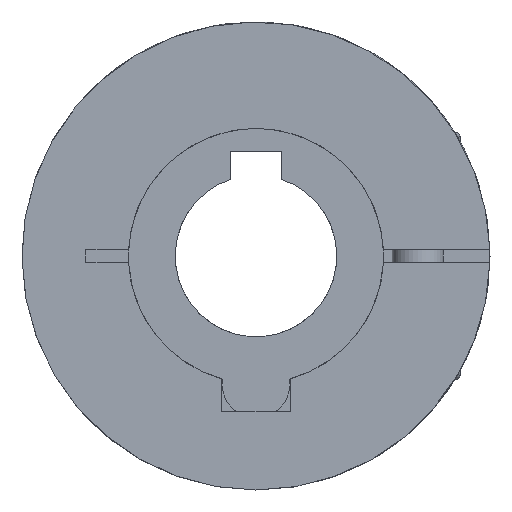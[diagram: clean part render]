
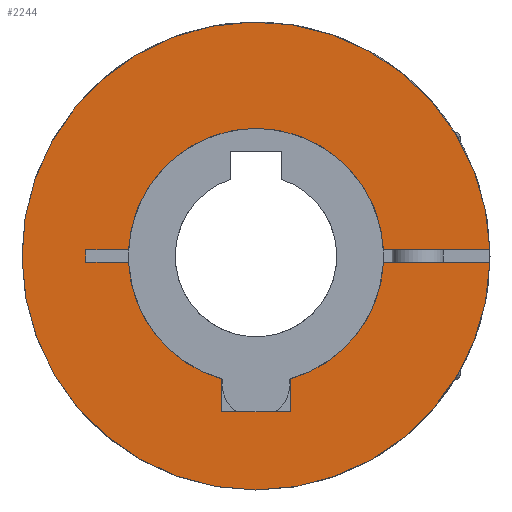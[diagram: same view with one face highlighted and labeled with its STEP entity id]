
A CAD part, left-side view. The second image highlights one B-rep face of the part: STEP entity #2244.
In plain terms, the highlighted planar face has unit normal (-1, 0, 0).
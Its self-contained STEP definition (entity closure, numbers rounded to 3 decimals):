
#32=PLANE('',#2564);
#235=FACE_OUTER_BOUND('',#372,.T.);
#372=EDGE_LOOP('',(#1700,#1701,#1702,#1703,#1704,#1705,#1706,#1707,#1708,
#1709,#1710,#1711,#1712));
#519=LINE('',#3938,#646);
#522=LINE('',#3944,#649);
#523=LINE('',#3946,#650);
#525=LINE('',#3950,#652);
#528=LINE('',#3955,#655);
#530=LINE('',#3958,#657);
#531=LINE('',#3960,#658);
#532=LINE('',#3961,#659);
#646=VECTOR('',#3047,1.);
#649=VECTOR('',#3052,1.);
#650=VECTOR('',#3055,1.);
#652=VECTOR('',#3059,15.057);
#655=VECTOR('',#3064,22.546);
#657=VECTOR('',#3068,22.546);
#658=VECTOR('',#3069,15.057);
#659=VECTOR('',#3070,1.5);
#857=CIRCLE('',#2546,27.5);
#859=CIRCLE('',#2548,27.5);
#862=CIRCLE('',#2552,15.);
#865=CIRCLE('',#2556,15.);
#867=CIRCLE('',#2558,15.);
#1033=VERTEX_POINT('',#3890);
#1034=VERTEX_POINT('',#3891);
#1036=VERTEX_POINT('',#3896);
#1041=VERTEX_POINT('',#3908);
#1042=VERTEX_POINT('',#3909);
#1047=VERTEX_POINT('',#3920);
#1048=VERTEX_POINT('',#3922);
#1051=VERTEX_POINT('',#3928);
#1052=VERTEX_POINT('',#3930);
#1054=VERTEX_POINT('',#3936);
#1056=VERTEX_POINT('',#3942);
#1057=VERTEX_POINT('',#3949);
#1059=VERTEX_POINT('',#3959);
#1293=EDGE_CURVE('',#1033,#1034,#857,.T.);
#1296=EDGE_CURVE('',#1034,#1036,#859,.T.);
#1302=EDGE_CURVE('',#1041,#1042,#862,.T.);
#1308=EDGE_CURVE('',#1048,#1047,#865,.T.);
#1312=EDGE_CURVE('',#1052,#1051,#867,.T.);
#1316=EDGE_CURVE('',#1051,#1054,#519,.T.);
#1319=EDGE_CURVE('',#1054,#1056,#522,.T.);
#1320=EDGE_CURVE('',#1056,#1048,#523,.T.);
#1322=EDGE_CURVE('',#1057,#1041,#525,.T.);
#1325=EDGE_CURVE('',#1033,#1052,#528,.T.);
#1327=EDGE_CURVE('',#1042,#1036,#530,.T.);
#1328=EDGE_CURVE('',#1059,#1047,#531,.T.);
#1329=EDGE_CURVE('',#1057,#1059,#532,.T.);
#1700=ORIENTED_EDGE('',*,*,#1302,.T.);
#1701=ORIENTED_EDGE('',*,*,#1327,.T.);
#1702=ORIENTED_EDGE('',*,*,#1296,.F.);
#1703=ORIENTED_EDGE('',*,*,#1293,.F.);
#1704=ORIENTED_EDGE('',*,*,#1325,.T.);
#1705=ORIENTED_EDGE('',*,*,#1312,.T.);
#1706=ORIENTED_EDGE('',*,*,#1316,.T.);
#1707=ORIENTED_EDGE('',*,*,#1319,.T.);
#1708=ORIENTED_EDGE('',*,*,#1320,.T.);
#1709=ORIENTED_EDGE('',*,*,#1308,.T.);
#1710=ORIENTED_EDGE('',*,*,#1328,.F.);
#1711=ORIENTED_EDGE('',*,*,#1329,.F.);
#1712=ORIENTED_EDGE('',*,*,#1322,.T.);
#2244=ADVANCED_FACE('',(#235),#32,.T.);
#2546=AXIS2_PLACEMENT_3D('',#3892,#3007,#3008);
#2548=AXIS2_PLACEMENT_3D('',#3897,#3012,#3013);
#2552=AXIS2_PLACEMENT_3D('',#3910,#3023,#3024);
#2556=AXIS2_PLACEMENT_3D('',#3923,#3034,#3035);
#2558=AXIS2_PLACEMENT_3D('',#3931,#3040,#3041);
#2564=AXIS2_PLACEMENT_3D('',#3957,#3066,#3067);
#3007=DIRECTION('center_axis',(1.,0.,0.));
#3008=DIRECTION('ref_axis',(0.,0.,1.));
#3012=DIRECTION('center_axis',(1.,0.,0.));
#3013=DIRECTION('ref_axis',(0.,0.,1.));
#3023=DIRECTION('center_axis',(1.,0.,0.));
#3024=DIRECTION('ref_axis',(0.,0.,-1.));
#3034=DIRECTION('center_axis',(1.,0.,0.));
#3035=DIRECTION('ref_axis',(0.,0.,-1.));
#3040=DIRECTION('center_axis',(1.,0.,0.));
#3041=DIRECTION('ref_axis',(0.,0.,-1.));
#3047=DIRECTION('',(0.,0.,-1.));
#3052=DIRECTION('',(0.,1.,0.));
#3055=DIRECTION('',(0.,0.,1.));
#3059=DIRECTION('',(0.,-1.,0.));
#3064=DIRECTION('',(0.,1.,0.));
#3066=DIRECTION('center_axis',(-1.,0.,0.));
#3067=DIRECTION('ref_axis',(0.,-1.,0.));
#3068=DIRECTION('',(0.,-1.,0.));
#3069=DIRECTION('',(0.,-1.,0.));
#3070=DIRECTION('',(0.,0.,-1.));
#3890=CARTESIAN_POINT('',(0.,-27.49,-0.75));
#3891=CARTESIAN_POINT('',(0.,0.,-27.5));
#3892=CARTESIAN_POINT('Origin',(0.,0.,0.));
#3896=CARTESIAN_POINT('',(0.,-27.49,0.75));
#3897=CARTESIAN_POINT('Origin',(0.,0.,0.));
#3908=CARTESIAN_POINT('',(0.,14.981,0.75));
#3909=CARTESIAN_POINT('',(0.,-14.981,0.75));
#3910=CARTESIAN_POINT('Origin',(0.,0.,0.));
#3920=CARTESIAN_POINT('',(0.,14.981,-0.75));
#3922=CARTESIAN_POINT('',(0.,4.,-14.457));
#3923=CARTESIAN_POINT('Origin',(0.,0.,0.));
#3928=CARTESIAN_POINT('',(0.,-4.,-14.457));
#3930=CARTESIAN_POINT('',(0.,-14.981,-0.75));
#3931=CARTESIAN_POINT('Origin',(0.,0.,0.));
#3936=CARTESIAN_POINT('',(0.,-4.,-18.3));
#3938=CARTESIAN_POINT('',(0.,-4.,-4.575));
#3942=CARTESIAN_POINT('',(0.,4.,-18.3));
#3944=CARTESIAN_POINT('',(0.,0.,-18.3));
#3946=CARTESIAN_POINT('',(0.,4.,-4.575));
#3949=CARTESIAN_POINT('',(0.,20.,0.75));
#3950=CARTESIAN_POINT('',(0.,20.,0.75));
#3955=CARTESIAN_POINT('',(0.,-27.49,-0.75));
#3957=CARTESIAN_POINT('Origin',(0.,0.,0.));
#3958=CARTESIAN_POINT('',(0.,-4.943,0.75));
#3959=CARTESIAN_POINT('',(0.,20.,-0.75));
#3960=CARTESIAN_POINT('',(0.,20.,-0.75));
#3961=CARTESIAN_POINT('',(0.,20.,0.75));
